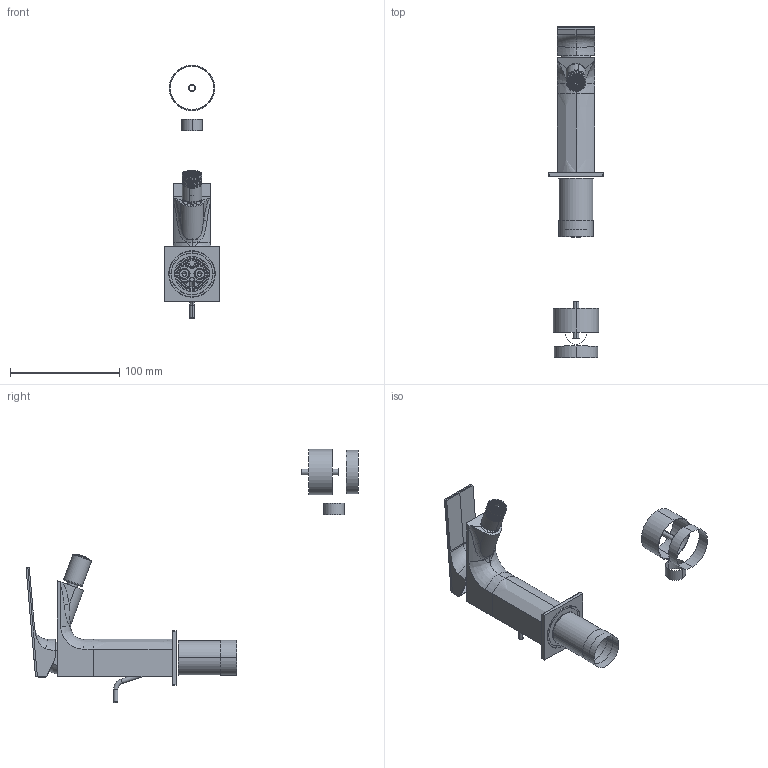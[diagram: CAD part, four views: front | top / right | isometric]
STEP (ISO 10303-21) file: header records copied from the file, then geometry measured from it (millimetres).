
FILE_DESCRIPTION((''),'2;1');
FILE_NAME('87103_ASM','2024-12-19T10:41:31',('volponeff'),(''),'CREO PARAMETRIC BY PTC INC, 2022014','CREO PARAMETRIC BY PTC INC, 2022014','');
FILE_SCHEMA(('CONFIG_CONTROL_DESIGN'));
Products named in the file (44): D473001859; A302D4005_H; A302D4005_D; A302D4005_F; A302D4005_G; A302D4005_E; A302D4005_C; A302D4005_I; A302D40062_ASM; D461000077; D500001403_MAR; A526000017; D453A80163_AF0; D456000221_AF0; D492520075_AF0; A488A80213_AF0; A488A80213_AF1; D482D40042_AF0; A503B60040_AF0; D518A80006_AF0; A496B60269_AF0; D477C70021_AF0; D459C10002_AF0; D509C70002_AF0; A532D50022_AF0; A536A80160_AF0; A482C20014_AF0; A496B60029_AF0; A469D40012_AF0; P453A80172_AF0; A494D40083_AF0; A496B70168_AF0; A496E10106_AF0; P309000014_AF0_ASM; A502C20003_A_AF0; A502C2003_B_AF0; A502C2003_C_AF0; A502C20003_D_AF0; A502C20003_AF0_ASM; D511000162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
Assembly tree (43 placements, depth 3):
  87103_ASM
    D473001859
    A302D40062_ASM
      A302D4005_H
      A302D4005_D
      A302D4005_F
      A302D4005_G
      A302D4005_E
      A302D4005_C
      A302D4005_I
    D461000077
    D500001403_MAR
    A526000017
    D453A80163_AF0
    D456000221_AF0
    D492520075_AF0
    A488A80213_AF0
    A488A80213_AF1
    D482D40042_AF0
    A503B60040_AF0
    D518A80006_AF0
    A496B60269_AF0
    P309000014_AF0_ASM
      D477C70021_AF0
      D459C10002_AF0
      D509C70002_AF0
      A532D50022_AF0
      A536A80160_AF0
      A482C20014_AF0
      A496B60029_AF0
      A469D40012_AF0
      P453A80172_AF0
      A494D40083_AF0
      A496B70168_AF0
      A496E10106_AF0
    A502C20003_AF0_ASM
      A502C20003_A_AF0
      A502C2003_B_AF0
      A502C2003_C_AF0
      A502C20003_D_AF0
    D511000162
    A536A80109
    A503B60031
    A450000077
Bounding box: 50 x 303.55 x 231.69 mm (x, y, z)
Volume: 105467.3 mm3; surface area: 108993.5 mm2
Topology: 23 solids, 45 shells, 4266 faces, 11833 edges, 7652 vertices
Faces by surface type: plane 2181, cylinder 805, torus 628, bspline 321, sphere 116, cone 108, extrusion 101, revolution 6
Entity records: 174995 total; most frequent: CARTESIAN_POINT 71788, ORIENTED_EDGE 23415, DIRECTION 18509, EDGE_CURVE 11745, VERTEX_POINT 7652, AXIS2_PLACEMENT_3D 7052, EDGE_LOOP 4728, B_SPLINE_CURVE_WITH_KNOTS 4462
